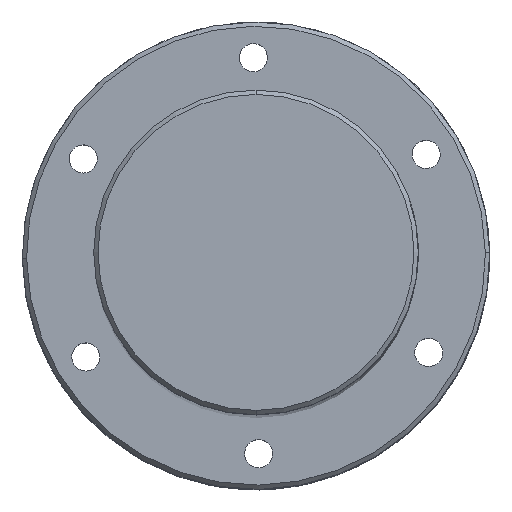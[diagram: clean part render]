
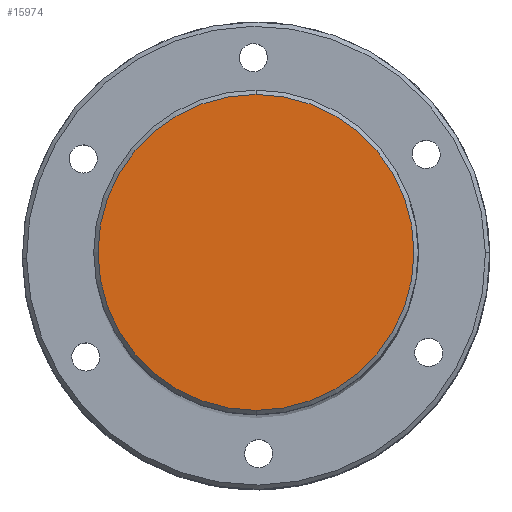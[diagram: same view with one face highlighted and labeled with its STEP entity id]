
A CAD part, top view. The second image highlights one B-rep face of the part: STEP entity #15974.
In plain terms, the highlighted planar face has unit normal (0, 0, 1) as drawn and (-1, 0, 0) by its records, which use the part's own axes.
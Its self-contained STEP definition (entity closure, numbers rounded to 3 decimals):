
#2018 = CARTESIAN_POINT ( 'NONE',  ( 0., 0., 0. ) ) ;
#2791 = CIRCLE ( 'NONE', #8715, 36.5 ) ;
#2919 = AXIS2_PLACEMENT_3D ( 'NONE', #2018, #16948, #14068 ) ;
#4443 = CIRCLE ( 'NONE', #2919, 36.5 ) ;
#4693 = EDGE_CURVE ( 'NONE', #9582, #5525, #4443, .T. ) ;
#5472 = PLANE ( 'NONE',  #14077 ) ;
#5525 = VERTEX_POINT ( 'NONE', #8721 ) ;
#5570 = DIRECTION ( 'NONE',  ( -1., 0., 0. ) ) ;
#6828 = DIRECTION ( 'NONE',  ( 0., 0., -1. ) ) ;
#6838 = CARTESIAN_POINT ( 'NONE',  ( 0., 0., 0. ) ) ;
#7656 = EDGE_CURVE ( 'NONE', #5525, #9582, #2791, .T. ) ;
#8255 = ORIENTED_EDGE ( 'NONE', *, *, #4693, .T. ) ;
#8715 = AXIS2_PLACEMENT_3D ( 'NONE', #13479, #5570, #6828 ) ;
#8721 = CARTESIAN_POINT ( 'NONE',  ( 0., 0., 36.5 ) ) ;
#9582 = VERTEX_POINT ( 'NONE', #12375 ) ;
#10975 = DIRECTION ( 'NONE',  ( 0., 0., -1. ) ) ;
#11073 = EDGE_LOOP ( 'NONE', ( #8255, #13692 ) ) ;
#12375 = CARTESIAN_POINT ( 'NONE',  ( 0., 0., -36.5 ) ) ;
#13479 = CARTESIAN_POINT ( 'NONE',  ( 0., 0., 0. ) ) ;
#13692 = ORIENTED_EDGE ( 'NONE', *, *, #7656, .T. ) ;
#14068 = DIRECTION ( 'NONE',  ( 0., 0., -1. ) ) ;
#14077 = AXIS2_PLACEMENT_3D ( 'NONE', #6838, #15957, #10975 ) ;
#15957 = DIRECTION ( 'NONE',  ( 1., 0., 0. ) ) ;
#15974 = ADVANCED_FACE ( 'NONE', ( #16727 ), #5472, .F. ) ;
#16727 = FACE_OUTER_BOUND ( 'NONE', #11073, .T. ) ;
#16948 = DIRECTION ( 'NONE',  ( -1., 0., 0. ) ) ;
